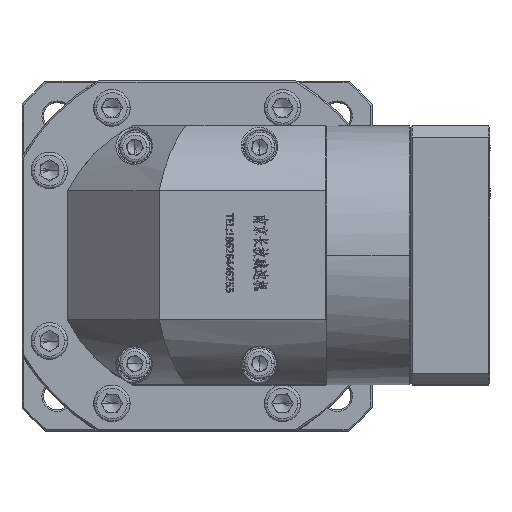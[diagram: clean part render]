
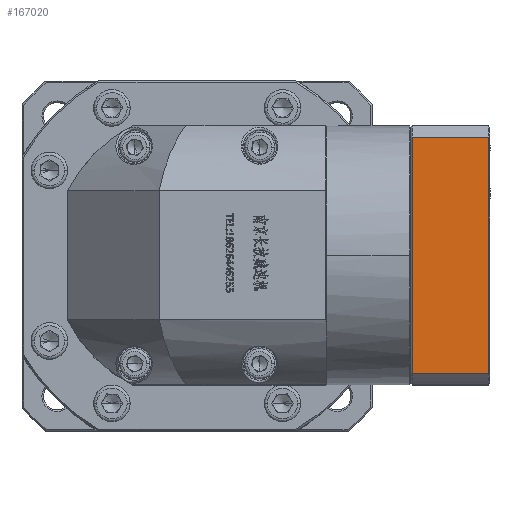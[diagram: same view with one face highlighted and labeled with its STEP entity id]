
A CAD part, top view. The second image highlights one B-rep face of the part: STEP entity #167020.
In plain terms, the highlighted planar face has unit normal (0, 0, 1).
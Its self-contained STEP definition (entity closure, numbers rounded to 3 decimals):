
#333 = CARTESIAN_POINT ( 'NONE',  ( 142.132, 106.509, 92.135 ) ) ;
#514 = CARTESIAN_POINT ( 'NONE',  ( 117.132, 106.509, 92.135 ) ) ;
#5395 = CARTESIAN_POINT ( 'NONE',  ( -47.629, 110.279, 92.135 ) ) ;
#10537 = VECTOR ( 'NONE', #133267, 1000. ) ;
#12454 = FACE_OUTER_BOUND ( 'NONE', #87732, .T. ) ;
#14614 = DIRECTION ( 'NONE',  ( 0., -1., 0. ) ) ;
#23075 = CARTESIAN_POINT ( 'NONE',  ( 142.632, 106.509, 92.135 ) ) ;
#25149 = EDGE_CURVE ( 'NONE', #56560, #39295, #172598, .T. ) ;
#28271 = CARTESIAN_POINT ( 'NONE',  ( 142.632, 187.739, 92.135 ) ) ;
#31913 = AXIS2_PLACEMENT_3D ( 'NONE', #23075, #122412, #37417 ) ;
#36792 = PLANE ( 'NONE',  #31913 ) ;
#37417 = DIRECTION ( 'NONE',  ( 0., 1., 0. ) ) ;
#39295 = VERTEX_POINT ( 'NONE', #123319 ) ;
#41541 = ORIENTED_EDGE ( 'NONE', *, *, #25149, .T. ) ;
#54609 = LINE ( 'NONE', #333, #125674 ) ;
#56560 = VERTEX_POINT ( 'NONE', #129449 ) ;
#63144 = VERTEX_POINT ( 'NONE', #169019 ) ;
#63962 = VECTOR ( 'NONE', #99774, 1000. ) ;
#82921 = VECTOR ( 'NONE', #98986, 1000. ) ;
#87732 = EDGE_LOOP ( 'NONE', ( #41541, #136443, #95294, #92269 ) ) ;
#89997 = EDGE_CURVE ( 'NONE', #154900, #39295, #161488, .T. ) ;
#92269 = ORIENTED_EDGE ( 'NONE', *, *, #123577, .F. ) ;
#95294 = ORIENTED_EDGE ( 'NONE', *, *, #182348, .F. ) ;
#98986 = DIRECTION ( 'NONE',  ( 1., 0., 0. ) ) ;
#99774 = DIRECTION ( 'NONE',  ( 0., -1., 0. ) ) ;
#120996 = CARTESIAN_POINT ( 'NONE',  ( 142.132, 110.279, 92.135 ) ) ;
#122412 = DIRECTION ( 'NONE',  ( 0., 0., -1. ) ) ;
#123319 = CARTESIAN_POINT ( 'NONE',  ( 117.132, 110.279, 92.135 ) ) ;
#123577 = EDGE_CURVE ( 'NONE', #56560, #63144, #162947, .T. ) ;
#125674 = VECTOR ( 'NONE', #14614, 1000. ) ;
#129449 = CARTESIAN_POINT ( 'NONE',  ( 117.132, 187.739, 92.135 ) ) ;
#133267 = DIRECTION ( 'NONE',  ( -1., 0., 0. ) ) ;
#136443 = ORIENTED_EDGE ( 'NONE', *, *, #89997, .F. ) ;
#154900 = VERTEX_POINT ( 'NONE', #120996 ) ;
#161488 = LINE ( 'NONE', #5395, #10537 ) ;
#162947 = LINE ( 'NONE', #28271, #82921 ) ;
#167020 = ADVANCED_FACE ( 'NONE', ( #12454 ), #36792, .F. ) ;
#169019 = CARTESIAN_POINT ( 'NONE',  ( 142.132, 187.739, 92.135 ) ) ;
#172598 = LINE ( 'NONE', #514, #63962 ) ;
#182348 = EDGE_CURVE ( 'NONE', #63144, #154900, #54609, .T. ) ;
